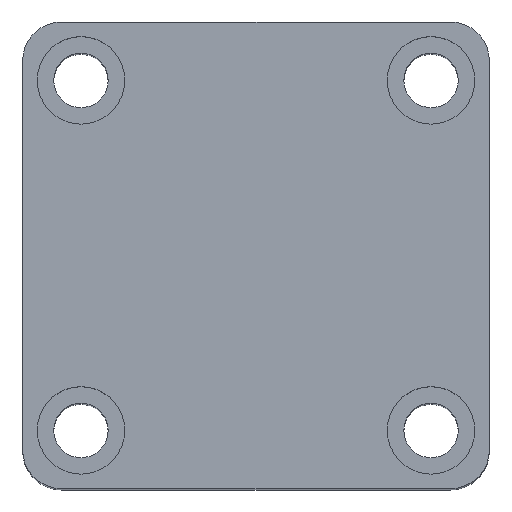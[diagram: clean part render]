
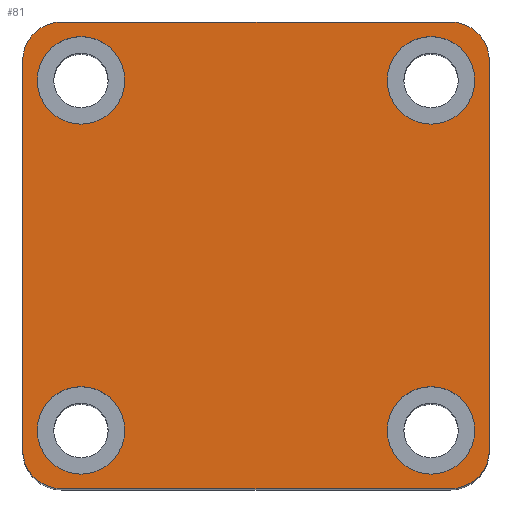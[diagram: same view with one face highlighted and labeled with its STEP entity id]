
A CAD part, top view. The second image highlights one B-rep face of the part: STEP entity #81.
In plain terms, the highlighted planar face has unit normal (0, 0, 1).
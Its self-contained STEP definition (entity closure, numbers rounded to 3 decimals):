
#81 = ADVANCED_FACE ( 'NONE', ( #794, #791, #793, #792, #796 ), #1589, .T. ) ;
#95 = ORIENTED_EDGE ( 'NONE', *, *, #2156, .T. ) ;
#125 = ORIENTED_EDGE ( 'NONE', *, *, #2160, .T. ) ;
#272 = ORIENTED_EDGE ( 'NONE', *, *, #1902, .T. ) ;
#273 = ORIENTED_EDGE ( 'NONE', *, *, #2108, .F. ) ;
#276 = ORIENTED_EDGE ( 'NONE', *, *, #1908, .T. ) ;
#279 = ORIENTED_EDGE ( 'NONE', *, *, #2165, .F. ) ;
#284 = ORIENTED_EDGE ( 'NONE', *, *, #2166, .F. ) ;
#287 = ORIENTED_EDGE ( 'NONE', *, *, #2164, .F. ) ;
#290 = ORIENTED_EDGE ( 'NONE', *, *, #2167, .F. ) ;
#291 = ORIENTED_EDGE ( 'NONE', *, *, #2112, .F. ) ;
#345 = VERTEX_POINT ( 'NONE', #1529 ) ;
#347 = VERTEX_POINT ( 'NONE', #1533 ) ;
#349 = VERTEX_POINT ( 'NONE', #1537 ) ;
#350 = VERTEX_POINT ( 'NONE', #1527 ) ;
#379 = VERTEX_POINT ( 'NONE', #1512 ) ;
#388 = VERTEX_POINT ( 'NONE', #1494 ) ;
#396 = VERTEX_POINT ( 'NONE', #1485 ) ;
#397 = VERTEX_POINT ( 'NONE', #1483 ) ;
#399 = VERTEX_POINT ( 'NONE', #1481 ) ;
#400 = VERTEX_POINT ( 'NONE', #1480 ) ;
#403 = VERTEX_POINT ( 'NONE', #1478 ) ;
#404 = VERTEX_POINT ( 'NONE', #1476 ) ;
#405 = VERTEX_POINT ( 'NONE', #1474 ) ;
#414 = VERTEX_POINT ( 'NONE', #1463 ) ;
#423 = VERTEX_POINT ( 'NONE', #1452 ) ;
#427 = VERTEX_POINT ( 'NONE', #1447 ) ;
#463 = ORIENTED_EDGE ( 'NONE', *, *, #1907, .T. ) ;
#500 = ORIENTED_EDGE ( 'NONE', *, *, #2148, .T. ) ;
#523 = ORIENTED_EDGE ( 'NONE', *, *, #2116, .F. ) ;
#556 = ORIENTED_EDGE ( 'NONE', *, *, #2120, .F. ) ;
#557 = ORIENTED_EDGE ( 'NONE', *, *, #1901, .T. ) ;
#562 = ORIENTED_EDGE ( 'NONE', *, *, #2154, .T. ) ;
#602 = CIRCLE ( 'NONE', #1176, 4.5 ) ;
#608 = CIRCLE ( 'NONE', #1177, 4.5 ) ;
#614 = CIRCLE ( 'NONE', #1807, 4.5 ) ;
#623 = CIRCLE ( 'NONE', #1809, 4.5 ) ;
#766 = CIRCLE ( 'NONE', #1888, 4. ) ;
#770 = CIRCLE ( 'NONE', #1892, 4. ) ;
#778 = CIRCLE ( 'NONE', #1891, 4. ) ;
#783 = CIRCLE ( 'NONE', #1887, 4. ) ;
#791 = FACE_BOUND ( 'NONE', #1003, .T. ) ;
#792 = FACE_BOUND ( 'NONE', #975, .T. ) ;
#793 = FACE_BOUND ( 'NONE', #995, .T. ) ;
#794 = FACE_BOUND ( 'NONE', #996, .T. ) ;
#796 = FACE_OUTER_BOUND ( 'NONE', #966, .T. ) ;
#966 = EDGE_LOOP ( 'NONE', ( #562, #463, #95, #276, #125, #557, #500, #272 ) ) ;
#975 = EDGE_LOOP ( 'NONE', ( #290, #556 ) ) ;
#995 = EDGE_LOOP ( 'NONE', ( #284, #523 ) ) ;
#996 = EDGE_LOOP ( 'NONE', ( #287, #273 ) ) ;
#1003 = EDGE_LOOP ( 'NONE', ( #279, #291 ) ) ;
#1119 = AXIS2_PLACEMENT_3D ( 'NONE', #2754, #2753, #2752 ) ;
#1120 = AXIS2_PLACEMENT_3D ( 'NONE', #2762, #2760, #2758 ) ;
#1121 = AXIS2_PLACEMENT_3D ( 'NONE', #2511, #2495, #2494 ) ;
#1123 = AXIS2_PLACEMENT_3D ( 'NONE', #2497, #2498, #2496 ) ;
#1176 = AXIS2_PLACEMENT_3D ( 'NONE', #2603, #2607, #2602 ) ;
#1177 = AXIS2_PLACEMENT_3D ( 'NONE', #2615, #2614, #2612 ) ;
#1190 = VECTOR ( 'NONE', #2506, 1000. ) ;
#1194 = VECTOR ( 'NONE', #2512, 1000. ) ;
#1196 = VECTOR ( 'NONE', #2517, 1000. ) ;
#1197 = LINE ( 'NONE', #2513, #1194 ) ;
#1200 = LINE ( 'NONE', #2519, #1196 ) ;
#1202 = LINE ( 'NONE', #2504, #1190 ) ;
#1211 = VECTOR ( 'NONE', #2540, 1000. ) ;
#1216 = LINE ( 'NONE', #2537, #1211 ) ;
#1365 = CIRCLE ( 'NONE', #1119, 4.5 ) ;
#1366 = CIRCLE ( 'NONE', #1120, 4.5 ) ;
#1367 = CIRCLE ( 'NONE', #1121, 4.5 ) ;
#1369 = CIRCLE ( 'NONE', #1123, 4.5 ) ;
#1374 = DIRECTION ( 'NONE',  ( 1., 0., 0. ) ) ;
#1375 = DIRECTION ( 'NONE',  ( 0., 0., 1. ) ) ;
#1376 = CARTESIAN_POINT ( 'NONE',  ( -20., 20., 75. ) ) ;
#1389 = DIRECTION ( 'NONE',  ( 1., 0., 0. ) ) ;
#1390 = DIRECTION ( 'NONE',  ( 0., 0., 1. ) ) ;
#1391 = CARTESIAN_POINT ( 'NONE',  ( 20., 20., 75. ) ) ;
#1392 = DIRECTION ( 'NONE',  ( 1., 0., 0. ) ) ;
#1393 = DIRECTION ( 'NONE',  ( 0., 0., 1. ) ) ;
#1396 = CARTESIAN_POINT ( 'NONE',  ( 20., -20., 75. ) ) ;
#1447 = CARTESIAN_POINT ( 'NONE',  ( 13.5, 18., 75. ) ) ;
#1452 = CARTESIAN_POINT ( 'NONE',  ( -24., 20., 75. ) ) ;
#1463 = CARTESIAN_POINT ( 'NONE',  ( 24., 20., 75. ) ) ;
#1474 = CARTESIAN_POINT ( 'NONE',  ( 13.5, -18., 75. ) ) ;
#1476 = CARTESIAN_POINT ( 'NONE',  ( 22.5, 18., 75. ) ) ;
#1478 = CARTESIAN_POINT ( 'NONE',  ( -24., -20., 75. ) ) ;
#1480 = CARTESIAN_POINT ( 'NONE',  ( 22.5, -18., 75. ) ) ;
#1481 = CARTESIAN_POINT ( 'NONE',  ( -20., 24., 75. ) ) ;
#1483 = CARTESIAN_POINT ( 'NONE',  ( -22.5, 18., 75. ) ) ;
#1485 = CARTESIAN_POINT ( 'NONE',  ( 20., 24., 75. ) ) ;
#1494 = CARTESIAN_POINT ( 'NONE',  ( -22.5, -18., 75. ) ) ;
#1512 = CARTESIAN_POINT ( 'NONE',  ( 24., -20., 75. ) ) ;
#1527 = CARTESIAN_POINT ( 'NONE',  ( -20., -24., 75. ) ) ;
#1529 = CARTESIAN_POINT ( 'NONE',  ( -13.5, 18., 75. ) ) ;
#1533 = CARTESIAN_POINT ( 'NONE',  ( -13.5, -18., 75. ) ) ;
#1537 = CARTESIAN_POINT ( 'NONE',  ( 20., -24., 75. ) ) ;
#1585 = DIRECTION ( 'NONE',  ( 1., 0., 0. ) ) ;
#1589 = PLANE ( 'NONE',  #1903 ) ;
#1593 = CARTESIAN_POINT ( 'NONE',  ( 0., 0., 75. ) ) ;
#1597 = DIRECTION ( 'NONE',  ( 0., 0., 1. ) ) ;
#1807 = AXIS2_PLACEMENT_3D ( 'NONE', #2625, #2623, #2622 ) ;
#1809 = AXIS2_PLACEMENT_3D ( 'NONE', #2653, #2661, #2645 ) ;
#1887 = AXIS2_PLACEMENT_3D ( 'NONE', #2478, #2492, #2421 ) ;
#1888 = AXIS2_PLACEMENT_3D ( 'NONE', #1376, #1375, #1374 ) ;
#1891 = AXIS2_PLACEMENT_3D ( 'NONE', #1391, #1390, #1389 ) ;
#1892 = AXIS2_PLACEMENT_3D ( 'NONE', #1396, #1393, #1392 ) ;
#1901 = EDGE_CURVE ( 'NONE', #349, #379, #770, .T. ) ;
#1902 = EDGE_CURVE ( 'NONE', #414, #396, #778, .T. ) ;
#1903 = AXIS2_PLACEMENT_3D ( 'NONE', #1593, #1597, #1585 ) ;
#1907 = EDGE_CURVE ( 'NONE', #399, #423, #766, .T. ) ;
#1908 = EDGE_CURVE ( 'NONE', #403, #350, #783, .T. ) ;
#2108 = EDGE_CURVE ( 'NONE', #397, #345, #623, .T. ) ;
#2112 = EDGE_CURVE ( 'NONE', #427, #404, #614, .T. ) ;
#2116 = EDGE_CURVE ( 'NONE', #388, #347, #608, .T. ) ;
#2120 = EDGE_CURVE ( 'NONE', #405, #400, #602, .T. ) ;
#2148 = EDGE_CURVE ( 'NONE', #379, #414, #1216, .T. ) ;
#2154 = EDGE_CURVE ( 'NONE', #396, #399, #1200, .T. ) ;
#2156 = EDGE_CURVE ( 'NONE', #423, #403, #1197, .T. ) ;
#2160 = EDGE_CURVE ( 'NONE', #350, #349, #1202, .T. ) ;
#2164 = EDGE_CURVE ( 'NONE', #345, #397, #1369, .T. ) ;
#2165 = EDGE_CURVE ( 'NONE', #404, #427, #1367, .T. ) ;
#2166 = EDGE_CURVE ( 'NONE', #347, #388, #1366, .T. ) ;
#2167 = EDGE_CURVE ( 'NONE', #400, #405, #1365, .T. ) ;
#2421 = DIRECTION ( 'NONE',  ( 1., 0., 0. ) ) ;
#2478 = CARTESIAN_POINT ( 'NONE',  ( -20., -20., 75. ) ) ;
#2492 = DIRECTION ( 'NONE',  ( 0., 0., 1. ) ) ;
#2494 = DIRECTION ( 'NONE',  ( 1., 0., 0. ) ) ;
#2495 = DIRECTION ( 'NONE',  ( 0., 0., 1. ) ) ;
#2496 = DIRECTION ( 'NONE',  ( 1., 0., 0. ) ) ;
#2497 = CARTESIAN_POINT ( 'NONE',  ( -18., 18., 75. ) ) ;
#2498 = DIRECTION ( 'NONE',  ( 0., 0., 1. ) ) ;
#2504 = CARTESIAN_POINT ( 'NONE',  ( -24., -24., 75. ) ) ;
#2506 = DIRECTION ( 'NONE',  ( 1., 0., 0. ) ) ;
#2511 = CARTESIAN_POINT ( 'NONE',  ( 18., 18., 75. ) ) ;
#2512 = DIRECTION ( 'NONE',  ( 0., -1., 0. ) ) ;
#2513 = CARTESIAN_POINT ( 'NONE',  ( -24., 24., 75. ) ) ;
#2517 = DIRECTION ( 'NONE',  ( -1., 0., 0. ) ) ;
#2519 = CARTESIAN_POINT ( 'NONE',  ( -24., 24., 75. ) ) ;
#2537 = CARTESIAN_POINT ( 'NONE',  ( 24., 24., 75. ) ) ;
#2540 = DIRECTION ( 'NONE',  ( 0., 1., 0. ) ) ;
#2602 = DIRECTION ( 'NONE',  ( 1., 0., 0. ) ) ;
#2603 = CARTESIAN_POINT ( 'NONE',  ( 18., -18., 75. ) ) ;
#2607 = DIRECTION ( 'NONE',  ( 0., 0., 1. ) ) ;
#2612 = DIRECTION ( 'NONE',  ( 1., 0., 0. ) ) ;
#2614 = DIRECTION ( 'NONE',  ( 0., 0., 1. ) ) ;
#2615 = CARTESIAN_POINT ( 'NONE',  ( -18., -18., 75. ) ) ;
#2622 = DIRECTION ( 'NONE',  ( 1., 0., 0. ) ) ;
#2623 = DIRECTION ( 'NONE',  ( 0., 0., 1. ) ) ;
#2625 = CARTESIAN_POINT ( 'NONE',  ( 18., 18., 75. ) ) ;
#2645 = DIRECTION ( 'NONE',  ( 1., 0., 0. ) ) ;
#2653 = CARTESIAN_POINT ( 'NONE',  ( -18., 18., 75. ) ) ;
#2661 = DIRECTION ( 'NONE',  ( 0., 0., 1. ) ) ;
#2752 = DIRECTION ( 'NONE',  ( 1., 0., 0. ) ) ;
#2753 = DIRECTION ( 'NONE',  ( 0., 0., 1. ) ) ;
#2754 = CARTESIAN_POINT ( 'NONE',  ( 18., -18., 75. ) ) ;
#2758 = DIRECTION ( 'NONE',  ( 1., 0., 0. ) ) ;
#2760 = DIRECTION ( 'NONE',  ( 0., 0., 1. ) ) ;
#2762 = CARTESIAN_POINT ( 'NONE',  ( -18., -18., 75. ) ) ;
